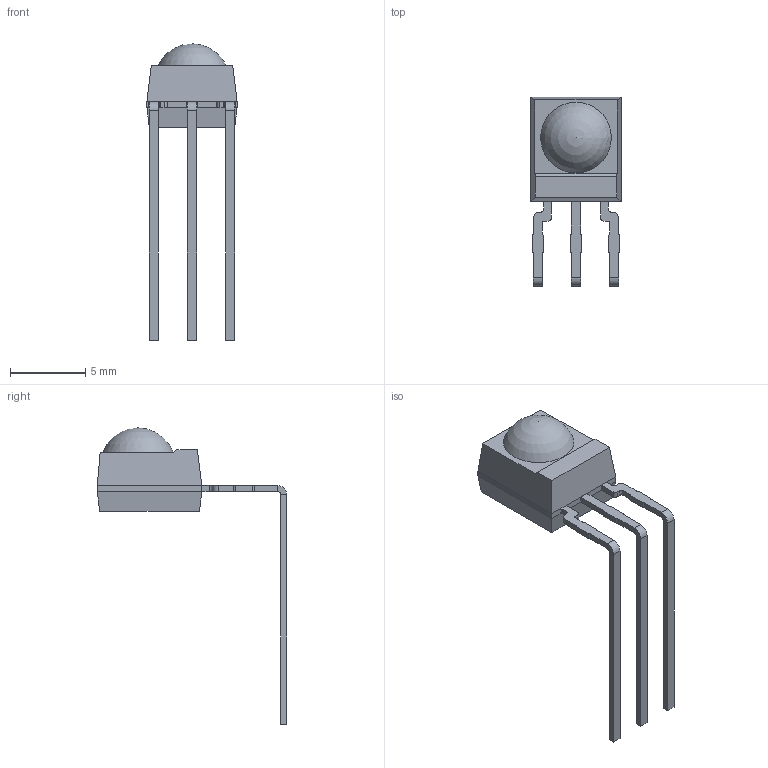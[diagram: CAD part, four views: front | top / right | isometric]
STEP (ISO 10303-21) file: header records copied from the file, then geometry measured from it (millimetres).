
FILE_DESCRIPTION((''),'2;1');
FILE_NAME('C:\temp\Hauschildt\3D-files\Mold\no_holder\Mold_SC.stp','2014-06-18T12:18:00',('gobenland'),(''),'Autodesk Inventor 2013','Autodesk Inventor 2013','');
FILE_SCHEMA(('AUTOMOTIVE_DESIGN { 1 0 10303 214 1 1 1 1 }'));
Length unit declared in the file: millimetre
Products named in the file (3): GO-100184.8; GO-100184; GO-100184.08
Assembly tree (2 placements, depth 2):
  GO-100184.8
    GO-100184
    GO-100184.08
Bounding box: 6 x 12.6 x 19.7 mm (x, y, z)
Volume: 186.7 mm3; surface area: 311.6 mm2
Topology: 4 solids, 4 shells, 99 faces, 241 edges, 150 vertices
Faces by surface type: plane 72, cylinder 26, sphere 1
Entity records: 2924 total; most frequent: DIRECTION 500, CARTESIAN_POINT 492, ORIENTED_EDGE 478, EDGE_CURVE 239, VECTOR 186, LINE 186, AXIS2_PLACEMENT_3D 157, VERTEX_POINT 149
